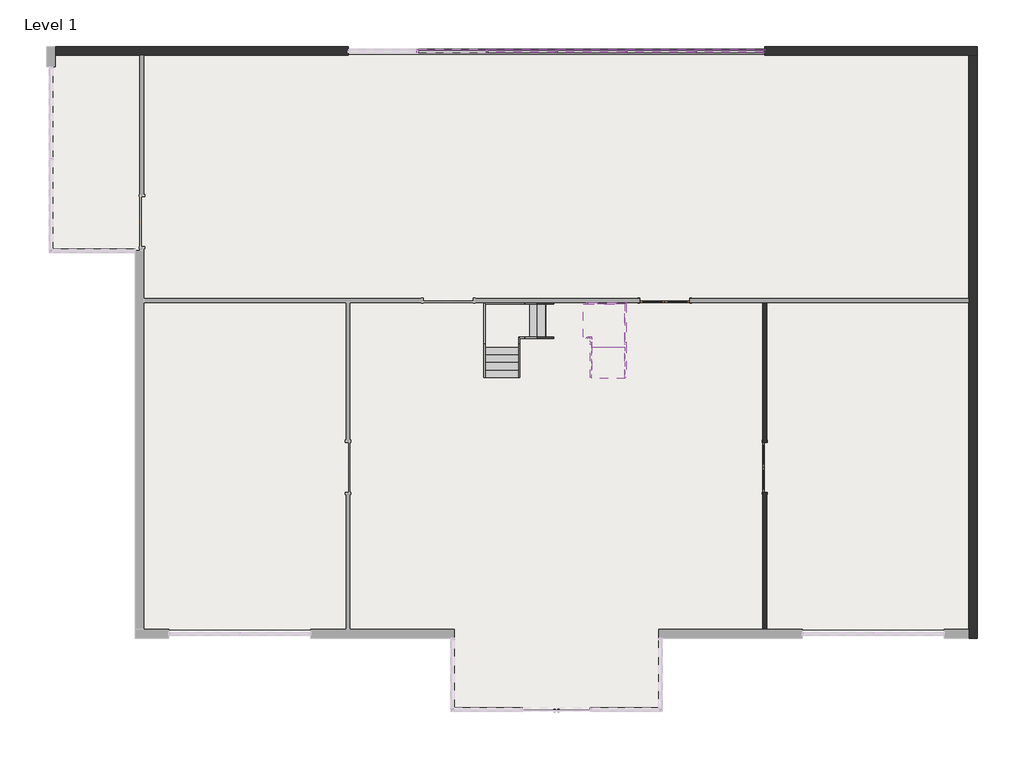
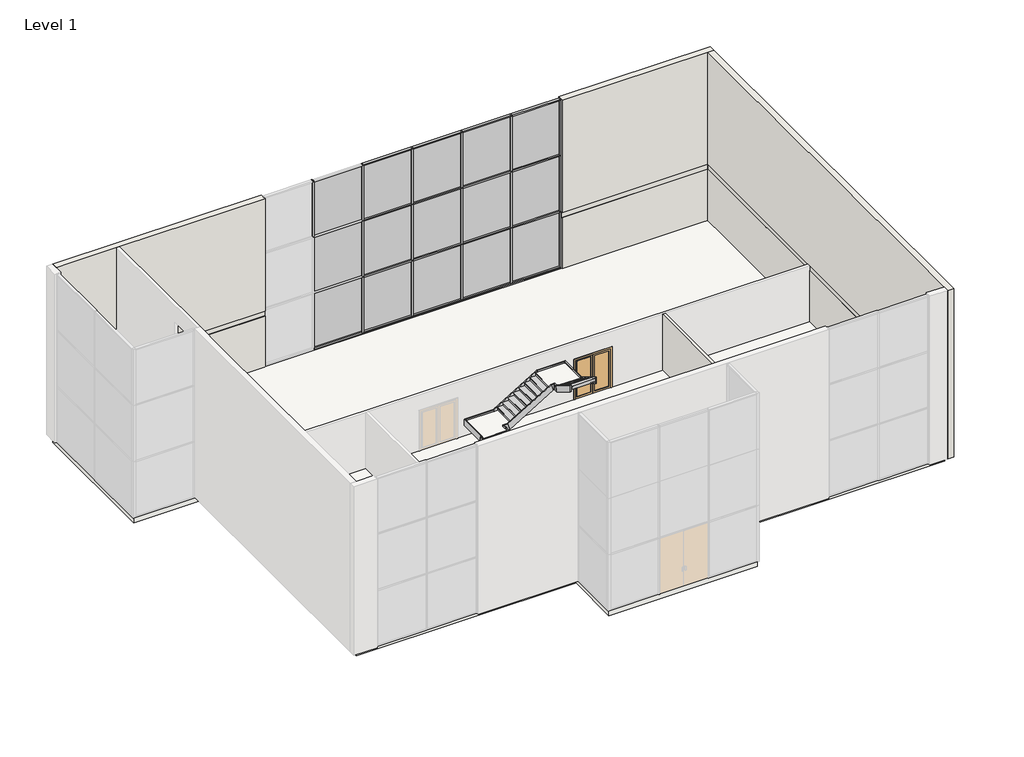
# One storey, part 3 of 3: 47 members, 15 plates, 3 slabs, 3 stair flights, 3 walls, 2 doors.
"""IFC4 building model written with IfcOpenShell, lengths in millimetres."""

from ifc_helpers import new_model, si_unit, frame, origin, place, context, project, spatial, polyline, outline, extrude, faceted_brep, transform, mapped, element, save
from components import door_3f2f997e, member_65a3e7b2, member_eaba9652, member_4955b6a0, member_9c76a069, member_1f84ea9c, member_3f395ae9, system_panel_glazed_e83c8d5a, system_panel_glazed_b0f97b96, system_panel_glazed_f5e36016, system_panel_glazed_d42ca814, non_monolithic_landing_b97fd22c, non_monolithic_landing_d9560d72, stair_flight_a050f997, stair_flight_7657f764, stair_flight_49d914ed

model = new_model("IFC4")

# Units and contexts
model_context = context("Model", 3, world=origin())
ifc_project = project(units=[si_unit("LENGTHUNIT", "METRE", prefix="MILLI")], contexts=[model_context])

# Site, building, storey
site = spatial("IfcSite", under=ifc_project)
building = spatial("IfcBuilding", under=site)
storey = spatial("IfcBuildingStorey", under=building, Name="Level 1", Elevation=0.0)

# Doors
placement = place(None, origin())
door_shape = door_3f2f997e(model_context)
element("IfcDoor", 1, ObjectType="Door-Double-Glass : 72\" x 84\"", at=placement, inside=storey, context=model_context, shape_type="MappedRepresentation", body=[
    mapped(door_shape, transform((4533.463868, 513.5983604, 0.0), x_axis=(0.0, 1.0, 0.0), y_axis=(-1.0, 0.0, 0.0), z_axis=(0.0, 0.0, 1.0))),
])
element("IfcDoor", 2, ObjectType="Door-Double-Glass : 72\" x 84\"", at=placement, inside=storey, context=model_context, shape_type="MappedRepresentation", body=[
    mapped(door_shape, transform((873.482618, 6611.9796104, 0.0), x_axis=(-1.0, 0.0, 0.0), y_axis=(0.0, -1.0, 0.0), z_axis=(0.0, 0.0, 1.0))),
])

# Members
member_shape = member_65a3e7b2(model_context)
element("IfcMember", 3, ObjectType="Rectangular Mullion : 2.5\" x 5\" rectangular", at=placement, inside=storey, context=model_context, shape_type="MappedRepresentation", body=[
    mapped(member_shape, transform((2022.8326178, 15753.5983604, 9144.0), x_axis=(0.0, 0.0, 1.0), y_axis=(0.0, 1.0, 0.0), z_axis=(-1.0, 0.0, 0.0))),
])
element("IfcMember", 4, ObjectType="Rectangular Mullion : 2.5\" x 5\" rectangular", at=placement, inside=storey, context=model_context, shape_type="MappedRepresentation", body=[
    mapped(member_shape, transform((4467.582618, 15753.5983604, 0.0), x_axis=(0.0, 0.0, -1.0), y_axis=(0.0, 1.0, 0.0), z_axis=(1.0, 0.0, 0.0))),
])
member_2_shape = member_eaba9652(model_context)
element("IfcMember", 5, ObjectType="Rectangular Mullion : 2.5\" x 5\" rectangular", at=placement, inside=storey, context=model_context, shape_type="MappedRepresentation", body=[
    mapped(member_2_shape, transform((1991.0826178, 15753.5983604, 0.0), x_axis=(-1.0, 0.0, 0.0), y_axis=(0.0, 1.0, 0.0), z_axis=(0.0, 0.0, -1.0))),
])
element("IfcMember", 6, ObjectType="Rectangular Mullion : 2.5\" x 5\" rectangular", at=placement, inside=storey, context=model_context, shape_type="MappedRepresentation", body=[
    mapped(member_2_shape, transform((-548.9173821, 15753.5983604, 0.0), x_axis=(-1.0, 0.0, 0.0), y_axis=(0.0, 1.0, 0.0), z_axis=(0.0, 0.0, -1.0))),
])
element("IfcMember", 7, ObjectType="Rectangular Mullion : 2.5\" x 5\" rectangular", at=placement, inside=storey, context=model_context, shape_type="MappedRepresentation", body=[
    mapped(member_2_shape, transform((-3088.917382, 15753.5983604, 0.0), x_axis=(-1.0, 0.0, 0.0), y_axis=(0.0, 1.0, 0.0), z_axis=(0.0, 0.0, -1.0))),
])
element("IfcMember", 8, ObjectType="Rectangular Mullion : 2.5\" x 5\" rectangular", at=placement, inside=storey, context=model_context, shape_type="MappedRepresentation", body=[
    mapped(member_2_shape, transform((-5628.9173819, 15753.5983604, 0.0), x_axis=(-1.0, 0.0, 0.0), y_axis=(0.0, 1.0, 0.0), z_axis=(0.0, 0.0, -1.0))),
])
member_3_shape = member_4955b6a0(model_context)
element("IfcMember", 9, ObjectType="Rectangular Mullion : 2.5\" x 5\" rectangular", at=placement, inside=storey, context=model_context, shape_type="MappedRepresentation", body=[
    mapped(member_3_shape, transform((2022.8326178, 15753.5983604, 3048.0), x_axis=(0.0, 0.0, 1.0), y_axis=(0.0, 1.0, 0.0), z_axis=(-1.0, 0.0, 0.0))),
])
element("IfcMember", 10, ObjectType="Rectangular Mullion : 2.5\" x 5\" rectangular", at=placement, inside=storey, context=model_context, shape_type="MappedRepresentation", body=[
    mapped(member_3_shape, transform((2022.8326178, 15753.5983604, 6096.0), x_axis=(0.0, 0.0, 1.0), y_axis=(0.0, 1.0, 0.0), z_axis=(-1.0, 0.0, 0.0))),
])
member_4_shape = member_9c76a069(model_context)
element("IfcMember", 11, ObjectType="Rectangular Mullion : 2.5\" x 5\" rectangular", at=placement, inside=storey, context=model_context, shape_type="MappedRepresentation", body=[
    mapped(member_4_shape, transform((-517.1673821, 15753.5983604, 3048.0), x_axis=(0.0, 0.0, 1.0), y_axis=(0.0, 1.0, 0.0), z_axis=(-1.0, 0.0, 0.0))),
])
element("IfcMember", 12, ObjectType="Rectangular Mullion : 2.5\" x 5\" rectangular", at=placement, inside=storey, context=model_context, shape_type="MappedRepresentation", body=[
    mapped(member_4_shape, transform((-3057.167382, 15753.5983604, 3048.0), x_axis=(0.0, 0.0, 1.0), y_axis=(0.0, 1.0, 0.0), z_axis=(-1.0, 0.0, 0.0))),
])
element("IfcMember", 13, ObjectType="Rectangular Mullion : 2.5\" x 5\" rectangular", at=placement, inside=storey, context=model_context, shape_type="MappedRepresentation", body=[
    mapped(member_4_shape, transform((-5597.1673819, 15753.5983604, 3048.0), x_axis=(0.0, 0.0, 1.0), y_axis=(0.0, 1.0, 0.0), z_axis=(-1.0, 0.0, 0.0))),
])
element("IfcMember", 14, ObjectType="Rectangular Mullion : 2.5\" x 5\" rectangular", at=placement, inside=storey, context=model_context, shape_type="MappedRepresentation", body=[
    mapped(member_4_shape, transform((-517.1673821, 15753.5983604, 6096.0), x_axis=(0.0, 0.0, 1.0), y_axis=(0.0, 1.0, 0.0), z_axis=(-1.0, 0.0, 0.0))),
])
element("IfcMember", 15, ObjectType="Rectangular Mullion : 2.5\" x 5\" rectangular", at=placement, inside=storey, context=model_context, shape_type="MappedRepresentation", body=[
    mapped(member_4_shape, transform((-3057.167382, 15753.5983604, 6096.0), x_axis=(0.0, 0.0, 1.0), y_axis=(0.0, 1.0, 0.0), z_axis=(-1.0, 0.0, 0.0))),
])
element("IfcMember", 16, ObjectType="Rectangular Mullion : 2.5\" x 5\" rectangular", at=placement, inside=storey, context=model_context, shape_type="MappedRepresentation", body=[
    mapped(member_4_shape, transform((-5597.1673819, 15753.5983604, 6096.0), x_axis=(0.0, 0.0, 1.0), y_axis=(0.0, 1.0, 0.0), z_axis=(-1.0, 0.0, 0.0))),
])
member_5_shape = member_1f84ea9c(model_context)
element("IfcMember", 17, ObjectType="Rectangular Mullion : 2.5\" x 5\" rectangular", at=placement, inside=storey, context=model_context, shape_type="MappedRepresentation", body=[
    mapped(member_5_shape, transform((1959.3326178, 15753.5983604, 0.0), x_axis=(0.0, 0.0, -1.0), y_axis=(0.0, 1.0, 0.0), z_axis=(1.0, 0.0, 0.0))),
])
element("IfcMember", 18, ObjectType="Rectangular Mullion : 2.5\" x 5\" rectangular", at=placement, inside=storey, context=model_context, shape_type="MappedRepresentation", body=[
    mapped(member_5_shape, transform((-580.6673821, 15753.5983604, 0.0), x_axis=(0.0, 0.0, -1.0), y_axis=(0.0, 1.0, 0.0), z_axis=(1.0, 0.0, 0.0))),
])
element("IfcMember", 19, ObjectType="Rectangular Mullion : 2.5\" x 5\" rectangular", at=placement, inside=storey, context=model_context, shape_type="MappedRepresentation", body=[
    mapped(member_5_shape, transform((-3120.667382, 15753.5983604, 0.0), x_axis=(0.0, 0.0, -1.0), y_axis=(0.0, 1.0, 0.0), z_axis=(1.0, 0.0, 0.0))),
])
element("IfcMember", 20, ObjectType="Rectangular Mullion : 2.5\" x 5\" rectangular", at=placement, inside=storey, context=model_context, shape_type="MappedRepresentation", body=[
    mapped(member_5_shape, transform((-5660.6673819, 15753.5983604, 0.0), x_axis=(0.0, 0.0, -1.0), y_axis=(0.0, 1.0, 0.0), z_axis=(1.0, 0.0, 0.0))),
])
element("IfcMember", 21, ObjectType="Rectangular Mullion : 2.5\" x 5\" rectangular", at=placement, inside=storey, context=model_context, shape_type="MappedRepresentation", body=[
    mapped(member_5_shape, transform((-517.1673821, 15753.5983604, 9144.0), x_axis=(0.0, 0.0, 1.0), y_axis=(0.0, 1.0, 0.0), z_axis=(-1.0, 0.0, 0.0))),
])
element("IfcMember", 22, ObjectType="Rectangular Mullion : 2.5\" x 5\" rectangular", at=placement, inside=storey, context=model_context, shape_type="MappedRepresentation", body=[
    mapped(member_5_shape, transform((-3057.167382, 15753.5983604, 9144.0), x_axis=(0.0, 0.0, 1.0), y_axis=(0.0, 1.0, 0.0), z_axis=(-1.0, 0.0, 0.0))),
])
element("IfcMember", 23, ObjectType="Rectangular Mullion : 2.5\" x 5\" rectangular", at=placement, inside=storey, context=model_context, shape_type="MappedRepresentation", body=[
    mapped(member_5_shape, transform((-5597.1673819, 15753.5983604, 9144.0), x_axis=(0.0, 0.0, 1.0), y_axis=(0.0, 1.0, 0.0), z_axis=(-1.0, 0.0, 0.0))),
])
element("IfcMember", 24, ObjectType="Rectangular Mullion : 2.5\" x 5\" rectangular", at=placement, inside=storey, context=model_context, shape_type="MappedRepresentation", body=[
    mapped(member_2_shape, transform((1991.0826178, 15753.5983604, 3048.0), x_axis=(-1.0, 0.0, 0.0), y_axis=(0.0, 1.0, 0.0), z_axis=(0.0, 0.0, -1.0))),
])
element("IfcMember", 25, ObjectType="Rectangular Mullion : 2.5\" x 5\" rectangular", at=placement, inside=storey, context=model_context, shape_type="MappedRepresentation", body=[
    mapped(member_2_shape, transform((-548.9173821, 15753.5983604, 3048.0), x_axis=(-1.0, 0.0, 0.0), y_axis=(0.0, 1.0, 0.0), z_axis=(0.0, 0.0, -1.0))),
])
element("IfcMember", 26, ObjectType="Rectangular Mullion : 2.5\" x 5\" rectangular", at=placement, inside=storey, context=model_context, shape_type="MappedRepresentation", body=[
    mapped(member_2_shape, transform((-3088.917382, 15753.5983604, 3048.0), x_axis=(-1.0, 0.0, 0.0), y_axis=(0.0, 1.0, 0.0), z_axis=(0.0, 0.0, -1.0))),
])
element("IfcMember", 27, ObjectType="Rectangular Mullion : 2.5\" x 5\" rectangular", at=placement, inside=storey, context=model_context, shape_type="MappedRepresentation", body=[
    mapped(member_2_shape, transform((-5628.9173819, 15753.5983604, 3048.0), x_axis=(-1.0, 0.0, 0.0), y_axis=(0.0, 1.0, 0.0), z_axis=(0.0, 0.0, -1.0))),
])
element("IfcMember", 28, ObjectType="Rectangular Mullion : 2.5\" x 5\" rectangular", at=placement, inside=storey, context=model_context, shape_type="MappedRepresentation", body=[
    mapped(member_2_shape, transform((1991.0826178, 15753.5983604, 6096.0), x_axis=(-1.0, 0.0, 0.0), y_axis=(0.0, 1.0, 0.0), z_axis=(0.0, 0.0, -1.0))),
])
element("IfcMember", 29, ObjectType="Rectangular Mullion : 2.5\" x 5\" rectangular", at=placement, inside=storey, context=model_context, shape_type="MappedRepresentation", body=[
    mapped(member_2_shape, transform((-548.9173821, 15753.5983604, 6096.0), x_axis=(-1.0, 0.0, 0.0), y_axis=(0.0, 1.0, 0.0), z_axis=(0.0, 0.0, -1.0))),
])
element("IfcMember", 30, ObjectType="Rectangular Mullion : 2.5\" x 5\" rectangular", at=placement, inside=storey, context=model_context, shape_type="MappedRepresentation", body=[
    mapped(member_2_shape, transform((-3088.917382, 15753.5983604, 6096.0), x_axis=(-1.0, 0.0, 0.0), y_axis=(0.0, 1.0, 0.0), z_axis=(0.0, 0.0, -1.0))),
])
element("IfcMember", 31, ObjectType="Rectangular Mullion : 2.5\" x 5\" rectangular", at=placement, inside=storey, context=model_context, shape_type="MappedRepresentation", body=[
    mapped(member_2_shape, transform((-5628.9173819, 15753.5983604, 6096.0), x_axis=(-1.0, 0.0, 0.0), y_axis=(0.0, 1.0, 0.0), z_axis=(0.0, 0.0, -1.0))),
])
element("IfcMember", 32, ObjectType="Rectangular Mullion : 2.5\" x 5\" rectangular", at=placement, inside=storey, context=model_context, shape_type="MappedRepresentation", body=[
    mapped(member_2_shape, transform((-8168.9173818, 15753.5983604, 6096.0), x_axis=(-1.0, 0.0, 0.0), y_axis=(0.0, 1.0, 0.0), z_axis=(0.0, 0.0, -1.0))),
])
member_6_shape = member_3f395ae9(model_context)
element("IfcMember", 33, ObjectType="Rectangular Mullion : 2.5\" x 5\" rectangular", at=placement, inside=storey, context=model_context, shape_type="MappedRepresentation", body=[
    mapped(member_6_shape, transform((4531.082618, 15753.5983604, 9144.0), x_axis=(1.0, 0.0, 0.0), y_axis=(0.0, 1.0, 0.0), z_axis=(0.0, 0.0, 1.0))),
])
element("IfcMember", 34, ObjectType="Rectangular Mullion : 2.5\" x 5\" rectangular", at=placement, inside=storey, context=model_context, shape_type="MappedRepresentation", body=[
    mapped(member_6_shape, transform((4531.082618, 15753.5983604, 3048.0), x_axis=(1.0, 0.0, 0.0), y_axis=(0.0, 1.0, 0.0), z_axis=(0.0, 0.0, 1.0))),
])
element("IfcMember", 35, ObjectType="Rectangular Mullion : 2.5\" x 5\" rectangular", at=placement, inside=storey, context=model_context, shape_type="MappedRepresentation", body=[
    mapped(member_6_shape, transform((4531.082618, 15753.5983604, 6096.0), x_axis=(1.0, 0.0, 0.0), y_axis=(0.0, 1.0, 0.0), z_axis=(0.0, 0.0, 1.0))),
])
element("IfcMember", 36, ObjectType="Stringer - 2\" Width", at=placement, inside=storey, context=model_context, shape_type="SweptSolid", body=[
    extrude(outline(polyline([(3796.5483604, 0.0), (3796.5483604, 182.4137818), (5018.2956204, 922.8666667), (5103.4500769, 618.0666667), (4083.6400769, 0.0), (3796.5483604, 0.0)])), frame((-5743.217382, 0.0, 0.0), z_axis=(1.0, 0.0, 0.0), x_axis=(0.0, 1.0, 0.0)), (0.0, 0.0, 1.0), 50.8),
])
element("IfcMember", 37, ObjectType="Stringer - 2\" Width", at=placement, inside=storey, context=model_context, shape_type="SweptSolid", body=[
    extrude(outline(polyline([(3796.5483604, 0.0), (3796.5483604, 182.4137818), (5018.2956204, 922.8666667), (5103.4500769, 618.0666667), (4083.6400769, 0.0), (3796.5483604, 0.0)])), frame((-4473.217382, 0.0, 0.0), z_axis=(1.0, 0.0, 0.0), x_axis=(0.0, 1.0, 0.0)), (0.0, 0.0, 1.0), 50.8),
])
element("IfcMember", 38, ObjectType="Stringer - 2\" Width", at=placement, inside=storey, context=model_context, shape_type="SweptSolid", body=[
    extrude(outline(polyline([(922.8666667, -4242.070122), (618.0666667, -4156.9156655), (1972.7333333, -1921.7156655), (2277.5333333, -2006.870122), (922.8666667, -4242.070122)])), frame((0.0, 6488.9483604, 0.0), z_axis=(0.0, 1.0, 0.0), x_axis=(0.0, 0.0, 1.0)), (0.0, 0.0, 1.0), 50.8),
])
element("IfcMember", 39, ObjectType="Stringer - 2\" Width", at=placement, inside=storey, context=model_context, shape_type="SweptSolid", body=[
    extrude(outline(polyline([(922.8666667, -4242.070122), (618.0666667, -4156.9156655), (1972.7333333, -1921.7156655), (2277.5333333, -2006.870122), (922.8666667, -4242.070122)])), frame((0.0, 5218.9483604, 0.0), z_axis=(0.0, 1.0, 0.0), x_axis=(0.0, 0.0, 1.0)), (0.0, 0.0, 1.0), 50.8),
])
element("IfcMember", 40, ObjectType="Stringer - 2\" Width", at=placement, inside=storey, context=model_context, shape_type="Brep", body=[
    faceted_brep([(-4242.070122, 6488.9483604, 922.8666667), (-4242.070122, 6539.7483604, 922.8666667), (-5743.217382, 6539.7483604, 922.8666667), (-5692.417382, 6488.9483604, 922.8666667), (-4156.9156655, 6488.9483604, 618.0666667), (-5692.417382, 6488.9483604, 618.0666667), (-4156.9156655, 6539.7483604, 618.0666667), (-5743.217382, 6539.7483604, 618.0666667)], [[[0, 1, 2, 3]], [[4, 0, 3, 5]], [[6, 4, 5, 7]], [[1, 6, 7, 2]], [[1, 0, 4, 6]], [[2, 7, 5, 3]]]),
])
element("IfcMember", 41, ObjectType="Stringer - 2\" Width", at=placement, inside=storey, context=model_context, shape_type="Brep", body=[
    faceted_brep([(-5692.417382, 6488.9483604, 922.8666667), (-5743.217382, 6539.7483604, 922.8666667), (-5743.217382, 5018.2956204, 922.8666667), (-5692.417382, 5018.2956204, 922.8666667), (-5692.417382, 6488.9483604, 618.0666667), (-5692.417382, 5103.4500769, 618.0666667), (-5743.217382, 6539.7483604, 618.0666667), (-5743.217382, 5103.4500769, 618.0666667)], [[[0, 1, 2, 3]], [[4, 0, 3, 5]], [[6, 4, 5, 7]], [[1, 6, 7, 2]], [[1, 0, 4, 6]], [[2, 7, 5, 3]]]),
])
element("IfcMember", 42, ObjectType="Stringer - 2\" Width", at=placement, inside=storey, context=model_context, shape_type="Brep", body=[
    faceted_brep([(-4473.217382, 5018.2956204, 922.8666667), (-4422.417382, 5018.2956204, 922.8666667), (-4422.417382, 5218.9483604, 922.8666667), (-4473.217382, 5269.7483604, 922.8666667), (-4473.217382, 5103.4500769, 618.0666667), (-4473.217382, 5269.7483604, 618.0666667), (-4422.417382, 5103.4500769, 618.0666667), (-4422.417382, 5218.9483604, 618.0666667)], [[[0, 1, 2, 3]], [[4, 0, 3, 5]], [[6, 4, 5, 7]], [[1, 6, 7, 2]], [[1, 0, 4, 6]], [[2, 7, 5, 3]]]),
])
element("IfcMember", 43, ObjectType="Stringer - 2\" Width", at=placement, inside=storey, context=model_context, shape_type="Brep", body=[
    faceted_brep([(-4473.217382, 5269.7483604, 922.8666667), (-4422.417382, 5218.9483604, 922.8666667), (-4242.070122, 5218.9483604, 922.8666667), (-4242.070122, 5269.7483604, 922.8666667), (-4473.217382, 5269.7483604, 618.0666667), (-4156.9156655, 5269.7483604, 618.0666667), (-4422.417382, 5218.9483604, 618.0666667), (-4156.9156655, 5218.9483604, 618.0666667)], [[[0, 1, 2, 3]], [[4, 0, 3, 5]], [[6, 4, 5, 7]], [[1, 6, 7, 2]], [[1, 0, 4, 6]], [[2, 7, 5, 3]]]),
])
element("IfcMember", 44, ObjectType="Stringer - 2\" Width", at=placement, inside=storey, context=model_context, shape_type="SweptSolid", body=[
    extrude(outline(polyline([(5089.4011005, 2277.5333333), (5004.246644, 1972.7333333), (3796.5483604, 2704.671687), (3796.5483604, 3061.0804485), (5089.4011005, 2277.5333333)])), frame((-587.017382, 0.0, 0.0), z_axis=(1.0, 0.0, 0.0), x_axis=(0.0, 1.0, 0.0)), (0.0, 0.0, 1.0), 50.8),
])
element("IfcMember", 45, ObjectType="Stringer - 2\" Width", at=placement, inside=storey, context=model_context, shape_type="SweptSolid", body=[
    extrude(outline(polyline([(5089.4011005, 2277.5333333), (5004.246644, 1972.7333333), (3796.5483604, 2704.671687), (3796.5483604, 3061.0804485), (5089.4011005, 2277.5333333)])), frame((-1857.017382, 0.0, 0.0), z_axis=(1.0, 0.0, 0.0), x_axis=(0.0, 1.0, 0.0)), (0.0, 0.0, 1.0), 50.8),
])
element("IfcMember", 46, ObjectType="Stringer - 2\" Width", at=placement, inside=storey, context=model_context, shape_type="Brep", body=[
    faceted_brep([(-587.017382, 5089.4011005, 2277.5333333), (-536.217382, 5089.4011005, 2277.5333333), (-536.217382, 6539.7483604, 2277.5333333), (-587.017382, 6488.9483604, 2277.5333333), (-587.017382, 5004.246644, 1972.7333333), (-587.017382, 6488.9483604, 1972.7333333), (-536.217382, 5004.246644, 1972.7333333), (-536.217382, 6539.7483604, 1972.7333333)], [[[0, 1, 2, 3]], [[4, 0, 3, 5]], [[6, 4, 5, 7]], [[1, 6, 7, 2]], [[1, 0, 4, 6]], [[2, 7, 5, 3]]]),
])
element("IfcMember", 47, ObjectType="Stringer - 2\" Width", at=placement, inside=storey, context=model_context, shape_type="Brep", body=[
    faceted_brep([(-587.017382, 6488.9483604, 2277.5333333), (-536.217382, 6539.7483604, 2277.5333333), (-2006.870122, 6539.7483604, 2277.5333333), (-2006.870122, 6488.9483604, 2277.5333333), (-587.017382, 6488.9483604, 1972.7333333), (-1921.7156655, 6488.9483604, 1972.7333333), (-536.217382, 6539.7483604, 1972.7333333), (-1921.7156655, 6539.7483604, 1972.7333333)], [[[0, 1, 2, 3]], [[4, 0, 3, 5]], [[6, 4, 5, 7]], [[1, 6, 7, 2]], [[1, 0, 4, 6]], [[2, 7, 5, 3]]]),
])
element("IfcMember", 48, ObjectType="Stringer - 2\" Width", at=placement, inside=storey, context=model_context, shape_type="Brep", body=[
    faceted_brep([(-2006.870122, 5269.7483604, 2277.5333333), (-2006.870122, 5218.9483604, 2277.5333333), (-1857.017382, 5218.9483604, 2277.5333333), (-1806.217382, 5269.7483604, 2277.5333333), (-1921.7156655, 5269.7483604, 1972.7333333), (-1806.217382, 5269.7483604, 1972.7333333), (-1921.7156655, 5218.9483604, 1972.7333333), (-1857.017382, 5218.9483604, 1972.7333333)], [[[0, 1, 2, 3]], [[4, 0, 3, 5]], [[6, 4, 5, 7]], [[1, 6, 7, 2]], [[1, 0, 4, 6]], [[2, 7, 5, 3]]]),
])
element("IfcMember", 49, ObjectType="Stringer - 2\" Width", at=placement, inside=storey, context=model_context, shape_type="Brep", body=[
    faceted_brep([(-1806.217382, 5269.7483604, 2277.5333333), (-1857.017382, 5218.9483604, 2277.5333333), (-1857.017382, 5089.4011005, 2277.5333333), (-1806.217382, 5089.4011005, 2277.5333333), (-1806.217382, 5269.7483604, 1972.7333333), (-1806.217382, 5004.246644, 1972.7333333), (-1857.017382, 5218.9483604, 1972.7333333), (-1857.017382, 5004.246644, 1972.7333333)], [[[0, 1, 2, 3]], [[4, 0, 3, 5]], [[6, 4, 5, 7]], [[1, 6, 7, 2]], [[1, 0, 4, 6]], [[2, 7, 5, 3]]]),
])

# Plates
system_panel_glazed_shape = system_panel_glazed_e83c8d5a(model_context)
element("IfcPlate", 50, ObjectType="System Panel : Glazed", at=placement, inside=storey, context=model_context, shape_type="MappedRepresentation", body=[
    mapped(system_panel_glazed_shape, transform((3245.2076179, 15753.5983604, 63.5), x_axis=(-1.0, 0.0, 0.0), y_axis=(0.0, -1.0, 0.0), z_axis=(0.0, 0.0, 1.0))),
])
element("IfcPlate", 51, ObjectType="System Panel : Glazed", at=placement, inside=storey, context=model_context, shape_type="MappedRepresentation", body=[
    mapped(system_panel_glazed_shape, transform((3245.2076179, 15753.5983604, 6127.75), x_axis=(-1.0, 0.0, 0.0), y_axis=(0.0, -1.0, 0.0), z_axis=(0.0, 0.0, 1.0))),
])
system_panel_glazed_2_shape = system_panel_glazed_b0f97b96(model_context)
element("IfcPlate", 52, ObjectType="System Panel : Glazed", at=placement, inside=storey, context=model_context, shape_type="MappedRepresentation", body=[
    mapped(system_panel_glazed_2_shape, transform((721.0826179, 15753.5983604, 63.5), x_axis=(-1.0, 0.0, 0.0), y_axis=(0.0, -1.0, 0.0), z_axis=(0.0, 0.0, 1.0))),
])
element("IfcPlate", 53, ObjectType="System Panel : Glazed", at=placement, inside=storey, context=model_context, shape_type="MappedRepresentation", body=[
    mapped(system_panel_glazed_2_shape, transform((-1818.917382, 15753.5983604, 63.5), x_axis=(-1.0, 0.0, 0.0), y_axis=(0.0, -1.0, 0.0), z_axis=(0.0, 0.0, 1.0))),
])
element("IfcPlate", 54, ObjectType="System Panel : Glazed", at=placement, inside=storey, context=model_context, shape_type="MappedRepresentation", body=[
    mapped(system_panel_glazed_2_shape, transform((-4358.9173819, 15753.5983604, 63.5), x_axis=(-1.0, 0.0, 0.0), y_axis=(0.0, -1.0, 0.0), z_axis=(0.0, 0.0, 1.0))),
])
element("IfcPlate", 55, ObjectType="System Panel : Glazed", at=placement, inside=storey, context=model_context, shape_type="MappedRepresentation", body=[
    mapped(system_panel_glazed_2_shape, transform((-6898.9173818, 15753.5983604, 63.5), x_axis=(-1.0, 0.0, 0.0), y_axis=(0.0, -1.0, 0.0), z_axis=(0.0, 0.0, 1.0))),
])
element("IfcPlate", 56, ObjectType="System Panel : Glazed", at=placement, inside=storey, context=model_context, shape_type="MappedRepresentation", body=[
    mapped(system_panel_glazed_2_shape, transform((721.0826179, 15753.5983604, 6127.75), x_axis=(-1.0, 0.0, 0.0), y_axis=(0.0, -1.0, 0.0), z_axis=(0.0, 0.0, 1.0))),
])
element("IfcPlate", 57, ObjectType="System Panel : Glazed", at=placement, inside=storey, context=model_context, shape_type="MappedRepresentation", body=[
    mapped(system_panel_glazed_2_shape, transform((-1818.917382, 15753.5983604, 6127.75), x_axis=(-1.0, 0.0, 0.0), y_axis=(0.0, -1.0, 0.0), z_axis=(0.0, 0.0, 1.0))),
])
element("IfcPlate", 58, ObjectType="System Panel : Glazed", at=placement, inside=storey, context=model_context, shape_type="MappedRepresentation", body=[
    mapped(system_panel_glazed_2_shape, transform((-4358.9173819, 15753.5983604, 6127.75), x_axis=(-1.0, 0.0, 0.0), y_axis=(0.0, -1.0, 0.0), z_axis=(0.0, 0.0, 1.0))),
])
element("IfcPlate", 59, ObjectType="System Panel : Glazed", at=placement, inside=storey, context=model_context, shape_type="MappedRepresentation", body=[
    mapped(system_panel_glazed_2_shape, transform((-6898.9173818, 15753.5983604, 6127.75), x_axis=(-1.0, 0.0, 0.0), y_axis=(0.0, -1.0, 0.0), z_axis=(0.0, 0.0, 1.0))),
])
system_panel_glazed_3_shape = system_panel_glazed_f5e36016(model_context)
element("IfcPlate", 60, ObjectType="System Panel : Glazed", at=placement, inside=storey, context=model_context, shape_type="MappedRepresentation", body=[
    mapped(system_panel_glazed_3_shape, transform((3245.2076179, 15753.5983604, 3079.75), x_axis=(-1.0, 0.0, 0.0), y_axis=(0.0, -1.0, 0.0), z_axis=(0.0, 0.0, 1.0))),
])
system_panel_glazed_4_shape = system_panel_glazed_d42ca814(model_context)
element("IfcPlate", 61, ObjectType="System Panel : Glazed", at=placement, inside=storey, context=model_context, shape_type="MappedRepresentation", body=[
    mapped(system_panel_glazed_4_shape, transform((721.0826179, 15753.5983604, 3079.75), x_axis=(-1.0, 0.0, 0.0), y_axis=(0.0, -1.0, 0.0), z_axis=(0.0, 0.0, 1.0))),
])
element("IfcPlate", 62, ObjectType="System Panel : Glazed", at=placement, inside=storey, context=model_context, shape_type="MappedRepresentation", body=[
    mapped(system_panel_glazed_4_shape, transform((-1818.917382, 15753.5983604, 3079.75), x_axis=(-1.0, 0.0, 0.0), y_axis=(0.0, -1.0, 0.0), z_axis=(0.0, 0.0, 1.0))),
])
element("IfcPlate", 63, ObjectType="System Panel : Glazed", at=placement, inside=storey, context=model_context, shape_type="MappedRepresentation", body=[
    mapped(system_panel_glazed_4_shape, transform((-4358.9173819, 15753.5983604, 3079.75), x_axis=(-1.0, 0.0, 0.0), y_axis=(0.0, -1.0, 0.0), z_axis=(0.0, 0.0, 1.0))),
])
element("IfcPlate", 64, ObjectType="System Panel : Glazed", at=placement, inside=storey, context=model_context, shape_type="MappedRepresentation", body=[
    mapped(system_panel_glazed_4_shape, transform((-6898.9173818, 15753.5983604, 3079.75), x_axis=(-1.0, 0.0, 0.0), y_axis=(0.0, -1.0, 0.0), z_axis=(0.0, 0.0, 1.0))),
])

# Slabs
element("IfcSlab", 65, ObjectType="Generic - 12\"", at=placement, inside=storey, context=model_context, shape_type="SweptSolid", body=[
    extrude(outline(polyline([(12008.207618, 15610.7233604), (12008.207618, -5439.5266396), (721.082618, -5439.5266396), (721.082618, -8357.3516396), (-6898.917382, -8357.3516396), (-6898.917382, -5439.5266396), (-18186.042382, -5439.5266396), (-18186.042382, 8438.3983604), (-21580.117382, 8438.3983604), (-21580.117382, 15610.7233604), (12008.207618, 15610.7233604)])), frame((0.0, 0.0, -304.8), z_axis=(0.0, 0.0, 1.0), x_axis=(1.0, 0.0, 0.0)), (0.0, 0.0, 1.0), 304.8),
])
non_monolithic_landing_shape = non_monolithic_landing_b97fd22c(model_context)
element("IfcSlab", 66, ObjectType="Non-Monolithic Landing", at=placement, inside=storey, context=model_context, shape_type="MappedRepresentation", body=[
    mapped(non_monolithic_landing_shape, transform((0.0, 0.0, 0.0), x_axis=(1.0, 0.0, 0.0), y_axis=(0.0, 1.0, 0.0), z_axis=(0.0, 0.0, 1.0))),
])
non_monolithic_landing_2_shape = non_monolithic_landing_d9560d72(model_context)
element("IfcSlab", 67, ObjectType="Non-Monolithic Landing", at=placement, inside=storey, context=model_context, shape_type="MappedRepresentation", body=[
    mapped(non_monolithic_landing_2_shape, transform((0.0, 0.0, 0.0), x_axis=(1.0, 0.0, 0.0), y_axis=(0.0, 1.0, 0.0), z_axis=(0.0, 0.0, 1.0))),
])

# Stair flights
stair_flight_shape = stair_flight_a050f997(model_context)
element("IfcStairFlight", 68, ObjectType="2\" Tread 1\" Nosing 1/4\" Riser", at=placement, inside=storey, context=model_context, shape_type="MappedRepresentation", body=[
    mapped(stair_flight_shape, transform((0.0, 0.0, 0.0), x_axis=(1.0, 0.0, 0.0), y_axis=(0.0, 1.0, 0.0), z_axis=(0.0, 0.0, 1.0))),
])
stair_flight_2_shape = stair_flight_7657f764(model_context)
element("IfcStairFlight", 69, ObjectType="2\" Tread 1\" Nosing 1/4\" Riser", at=placement, inside=storey, context=model_context, shape_type="MappedRepresentation", body=[
    mapped(stair_flight_2_shape, transform((0.0, 0.0, 0.0), x_axis=(1.0, 0.0, 0.0), y_axis=(0.0, 1.0, 0.0), z_axis=(0.0, 0.0, 1.0))),
])
stair_flight_3_shape = stair_flight_49d914ed(model_context)
element("IfcStairFlight", 70, ObjectType="2\" Tread 1\" Nosing 1/4\" Riser", at=placement, inside=storey, context=model_context, shape_type="MappedRepresentation", body=[
    mapped(stair_flight_3_shape, transform((0.0, 0.0, 0.0), x_axis=(1.0, 0.0, 0.0), y_axis=(0.0, 1.0, 0.0), z_axis=(0.0, 0.0, 1.0))),
])

# Walls
element("IfcWall", 71, ObjectType="Exterior - EIFS on Mtl. Stud", at=placement, inside=storey, context=model_context, shape_type="Brep", body=[
    faceted_brep([(12306.657618, 15598.0233604, 0.0), (12306.657618, 15598.0233604, 9144.0), (11995.507618, 15598.0233604, 9144.0), (4531.082618, 15598.0233604, 9144.0), (4531.082618, 15598.0233604, 3048.0), (11995.507618, 15598.0233604, 3048.0), (12008.207618, 15598.0233604, 3048.0), (12008.207618, 15598.0233604, 2774.95), (11995.507618, 15598.0233604, 2774.95), (4531.082618, 15598.0233604, 2774.95), (4531.082618, 15598.0233604, 0.0), (11995.507618, 15598.0233604, 0.0), (12306.657618, 15909.1733604, 9144.0), (12306.657618, 15909.1733604, 0.0), (4531.082618, 15909.1733604, 0.0), (4531.082618, 15909.1733604, 9144.0), (4531.082618, 15610.7233604, 2774.95), (4531.082618, 15610.7233604, 3048.0), (12008.207618, 15610.7233604, 2774.95), (12008.207618, 15610.7233604, 3048.0)], [[[0, 1, 2, 3, 4, 5, 6, 7, 8, 9, 10, 11]], [[12, 13, 14, 15]], [[13, 0, 11, 10, 14]], [[1, 12, 15, 3, 2]], [[1, 0, 13, 12]], [[15, 14, 10, 9, 16, 17, 4, 3]], [[18, 16, 9, 8, 7]], [[19, 6, 5, 4, 17]], [[19, 18, 7, 6]], [[18, 19, 17, 16]]]),
    faceted_brep([(-21424.542382, 15598.0233604, 0.0), (-18328.917382, 15598.0233604, 0.0), (-18173.342382, 15598.0233604, 0.0), (-10708.917382, 15598.0233604, 0.0), (-10708.917382, 15598.0233604, 2774.95), (-21424.542382, 15598.0233604, 2774.95), (-10708.917382, 15598.0233604, 9144.0), (-18173.342382, 15598.0233604, 9144.0), (-18328.917382, 15598.0233604, 9144.0), (-21424.542382, 15598.0233604, 9144.0), (-21424.542382, 15598.0233604, 3048.0), (-10708.917382, 15598.0233604, 3048.0), (-10708.917382, 15909.1733604, 0.0), (-21424.542382, 15909.1733604, 0.0), (-21424.542382, 15909.1733604, 9144.0), (-10708.917382, 15909.1733604, 9144.0), (-10708.917382, 15610.7233604, 3048.0), (-10708.917382, 15610.7233604, 2774.95), (-21424.542382, 15610.7233604, 2774.95), (-21424.542382, 15610.7233604, 3048.0)], [[[0, 1, 2, 3, 4, 5]], [[6, 7, 8, 9, 10, 11]], [[12, 13, 14, 15]], [[3, 2, 1, 0, 13, 12]], [[9, 8, 7, 6, 15, 14]], [[12, 15, 6, 11, 16, 17, 4, 3]], [[9, 14, 13, 0, 5, 18, 19, 10]], [[17, 18, 5, 4]], [[19, 16, 11, 10]], [[18, 17, 16, 19]]]),
])
element("IfcWall", 72, ObjectType="Exterior - EIFS on Mtl. Stud", at=placement, inside=storey, context=model_context, shape_type="Brep", body=[
    faceted_brep([(11995.507618, 15598.0233604, 0.0), (11995.507618, 6679.4483604, 0.0), (11995.507618, 6539.7483604, 0.0), (11995.507618, -5426.8266396, 0.0), (11995.507618, -5737.9766396, 0.0), (11995.507618, -5737.9766396, 9144.0), (11995.507618, -5426.8266396, 9144.0), (11995.507618, 6539.7483604, 9144.0), (11995.507618, 6679.4483604, 9144.0), (11995.507618, 15598.0233604, 9144.0), (11995.507618, 15598.0233604, 3048.0), (11995.507618, 6679.4483604, 3048.0), (11995.507618, 6539.7483604, 3048.0), (11995.507618, -5426.8266396, 3048.0), (11995.507618, -5439.5266396, 3048.0), (11995.507618, -5439.5266396, 2774.95), (11995.507618, -5426.8266396, 2774.95), (11995.507618, 15598.0233604, 2774.95), (12306.657618, -5737.9766396, 0.0), (12306.657618, 15598.0233604, 0.0), (12306.657618, 15598.0233604, 9144.0), (12306.657618, -5737.9766396, 9144.0), (12008.207618, 15598.0233604, 2774.95), (12008.207618, 15598.0233604, 3048.0), (12008.207618, -5439.5266396, 2774.95), (12008.207618, -5439.5266396, 3048.0)], [[[0, 1, 2, 3, 4, 5, 6, 7, 8, 9, 10, 11, 12, 13, 14, 15, 16, 17]], [[18, 19, 20, 21]], [[4, 3, 2, 1, 0, 19, 18]], [[9, 8, 7, 6, 5, 21, 20]], [[9, 20, 19, 0, 17, 22, 23, 10]], [[5, 4, 18, 21]], [[15, 24, 22, 17, 16]], [[23, 25, 14, 13, 12, 11, 10]], [[24, 25, 23, 22]], [[25, 24, 15, 14]]]),
])
element("IfcWall", 73, ObjectType="Interior - 5 1/2\" Partition (1-hr)", at=placement, inside=storey, context=model_context, shape_type="Brep", body=[
    faceted_brep([(4461.232618, 6539.7483604, 0.0), (4461.232618, 1427.9983604, 0.0), (4461.232618, 1427.9983604, 2133.6), (4461.232618, -400.8016396, 2133.6), (4461.232618, -400.8016396, 0.0), (4461.232618, -5426.8266396, 0.0), (4461.232618, -5426.8266396, 3048.0), (4461.232618, -400.8016396, 3048.0), (4461.232618, 1427.9983604, 3048.0), (4461.232618, 6539.7483604, 3048.0), (4600.932618, 1427.9983604, 2133.6), (4600.932618, 1427.9983604, 0.0), (4600.932618, 6539.7483604, 0.0), (4600.932618, 6539.7483604, 3048.0), (4600.932618, 1427.9983604, 3048.0), (4600.932618, -400.8016396, 3048.0), (4600.932618, -5426.8266396, 3048.0), (4600.932618, -5426.8266396, 0.0), (4600.932618, -400.8016396, 0.0), (4600.932618, -400.8016396, 2133.6)], [[[0, 1, 2, 3, 4, 5, 6, 7, 8, 9]], [[10, 11, 12, 13, 14, 15, 16, 17, 18, 19]], [[18, 17, 5, 4]], [[12, 11, 1, 0]], [[9, 8, 7, 6, 16, 15, 14, 13]], [[6, 5, 17, 16]], [[0, 9, 13, 12]], [[2, 1, 11, 10]], [[3, 2, 10, 19]], [[4, 3, 19, 18]]]),
])

save(model, "model.ifc")
